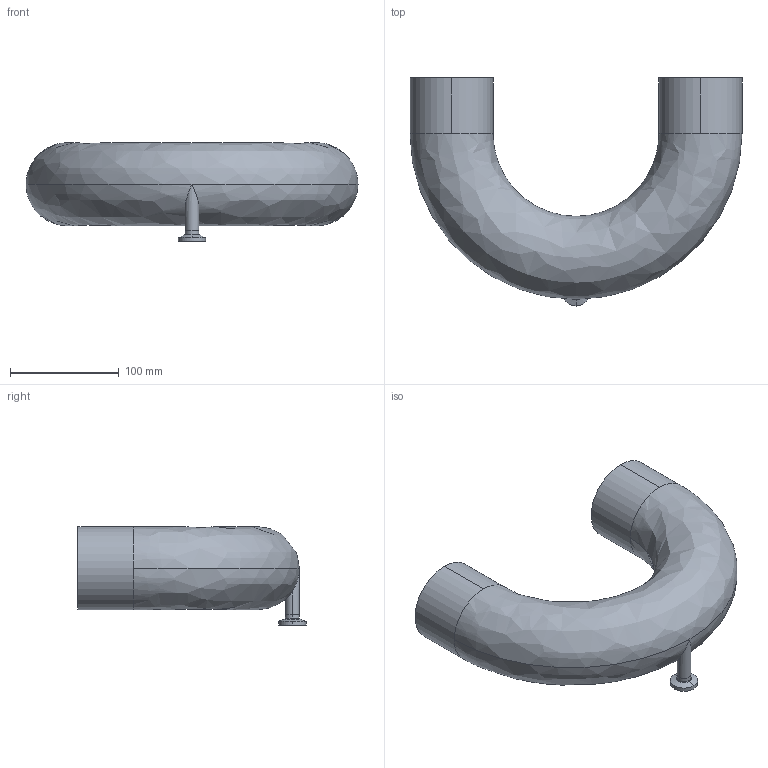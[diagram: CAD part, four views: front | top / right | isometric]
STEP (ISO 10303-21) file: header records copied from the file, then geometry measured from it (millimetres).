
FILE_DESCRIPTION (( 'STEP AP214' ), '1' );
FILE_NAME ('TE2USWWC6L3.0x.5-...STEP', '2016-05-25T05:42:48', ( 'eran' ), ( '' ), 'SwSTEP 2.0', 'SolidWorks 2016', '' );
FILE_SCHEMA (( 'AUTOMOTIVE_DESIGN' ));
Length unit declared in the file: millimetre
Products named in the file (1): TE2USWWC6L3.0x.5-..
Bounding box: 304.8 x 209.35 x 90.5 mm (x, y, z)
Volume: 180973.7 mm3; surface area: 219638.1 mm2
Topology: 2 solids, 2 shells, 42 faces, 104 edges, 66 vertices
Faces by surface type: cylinder 20, bspline 12, plane 6, cone 4
Entity records: 1767 total; most frequent: CARTESIAN_POINT 719, DIRECTION 226, ORIENTED_EDGE 208, EDGE_CURVE 104, AXIS2_PLACEMENT_3D 101, CIRCLE 70, VERTEX_POINT 66, EDGE_LOOP 48
